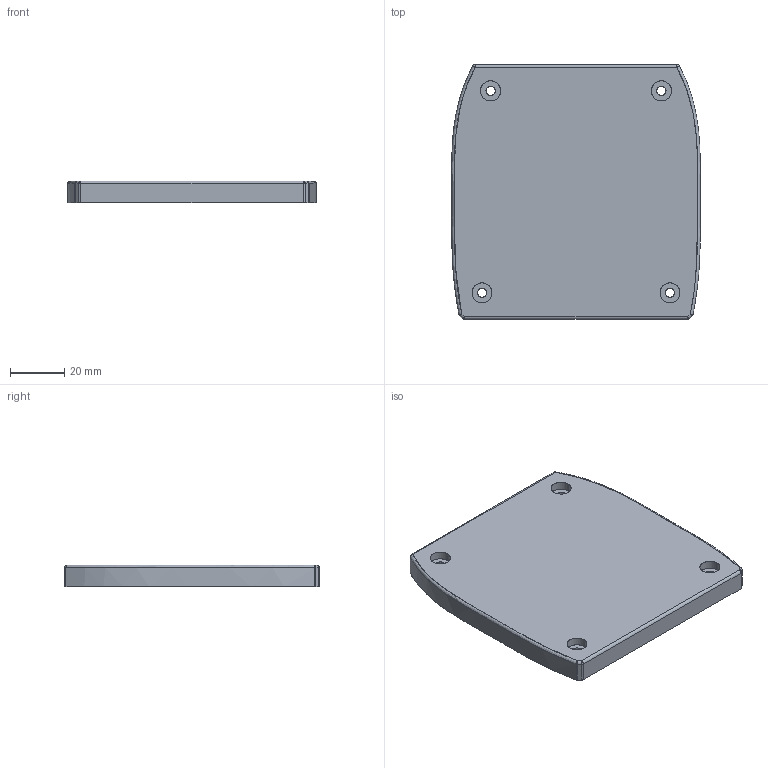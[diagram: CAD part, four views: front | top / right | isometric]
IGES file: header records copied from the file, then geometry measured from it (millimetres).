
Start section: SolidWorks IGES file using analytic representation for surfaces
Global section: file name: C:\Users\LL\Documents\àñòîðèÿ\êðûøêà äëÿ àñòîðèè.IGS; native system: SolidWorks 2023; preprocessor: SolidWorks 2023; author: LL; date: 250903.175728; units: millimetre
Bounding box: 91.41 x 93.7 x 8 mm (x, y, z)
Surface area: 23642.8 mm2 (no closed solid volume)
Topology: 0 solids, 0 shells, 127 faces, 1618 edges, 1612 vertices
Faces by surface type: bspline 89, revolution 38
